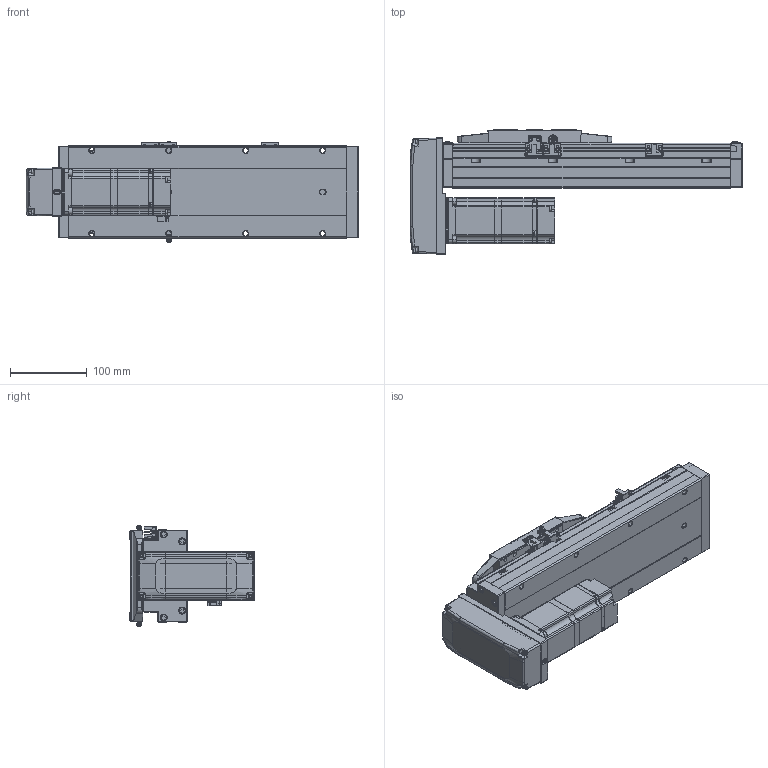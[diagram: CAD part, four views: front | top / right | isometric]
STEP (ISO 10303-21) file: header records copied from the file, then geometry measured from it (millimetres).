
FILE_DESCRIPTION (( 'STEP AP214' ), '1' );
FILE_NAME ('CTH12-L10-S150-BM-C40（简）.STEP', '2023-02-04T06:52:47', ( '' ), ( '' ), 'SwSTEP 2.0', 'SolidWorks 2018', '' );
FILE_SCHEMA (( 'AUTOMOTIVE_DESIGN' ));
Length unit declared in the file: millimetre
Products named in the file (25): 内六角圆柱头螺钉M3-2; CTH400W垫板（3个厚）; CTH12_body_3; CTH12-BL_body_4; 湮賑怢  裔赽-1(CTH12)賑怢; CTH400W假蚾啣; CTH12賑怢ㄗ潠ㄘ; 内六角圆柱头螺钉M3; 内六角圆柱头螺钉M5装饰螺钉; CTH8耜蚾蟀諉啣ㄗ潠ㄘ; hex nuts, style 1-grades ab gb_GB_FASTENER_NUT_SNAB1 M3-N; BM-C40; 嫖萇羲壽郪磁2; 嫖萇羲壽郪磁1; CTH12-BM-02; CTH12賑怢郪磁; PM-Y45; CTH12-L10-S150-BM-C40（简）; AC60_Valor predeterminado; CTH嫖萇羲壽假蚾啣; CTH12覜茼え; CTH12底座-L361简（150行程）; 内六角圆柱头螺钉M3-1; CTH12; 蚐郲
Assembly tree (45 placements, depth 4):
  CTH12-L10-S150-BM-C40（简）
    CTH12底座-L361简（150行程）
    蚐郲  x2
    CTH12_body_3
    CTH12-BL_body_4
    CTH12賑怢郪磁
      CTH12
        湮賑怢  裔赽-1(CTH12)賑怢
        CTH12賑怢ㄗ潠ㄘ
    CTH12覜茼え
    嫖萇羲壽郪磁1  x2
      CTH嫖萇羲壽假蚾啣
      PM-Y45
      内六角圆柱头螺钉M3-2
      内六角圆柱头螺钉M3-1
      hex nuts, style 1-grades ab gb_GB_FASTENER_NUT_SNAB1 M3-N
    嫖萇羲壽郪磁2
      CTH嫖萇羲壽假蚾啣
      PM-Y45
      内六角圆柱头螺钉M3-1  x2
      内六角圆柱头螺钉M3-2  x2
      hex nuts, style 1-grades ab gb_GB_FASTENER_NUT_SNAB1 M3-N  x2
    BM-C40
      CTH12-BM-02
      CTH8耜蚾蟀諉啣ㄗ潠ㄘ
    CTH400W垫板（3个厚）
    AC60_Valor predeterminado
    内六角圆柱头螺钉M3  x6
    内六角圆柱头螺钉M5装饰螺钉  x4
    CTH400W假蚾啣
Bounding box: 431.5 x 162.5 x 131.52 mm (x, y, z)
Volume: 3246806.1 mm3; surface area: 433716.2 mm2
Topology: 47 solids, 48 shells, 2601 faces, 6579 edges, 4197 vertices
Faces by surface type: plane 1422, cylinder 784, cone 243, bspline 100, torus 52
Entity records: 69849 total; most frequent: CARTESIAN_POINT 15893, ORIENTED_EDGE 10338, DIRECTION 10270, EDGE_CURVE 5169, AXIS2_PLACEMENT_3D 3475, VECTOR 3320, LINE 3320, VERTEX_POINT 3301
